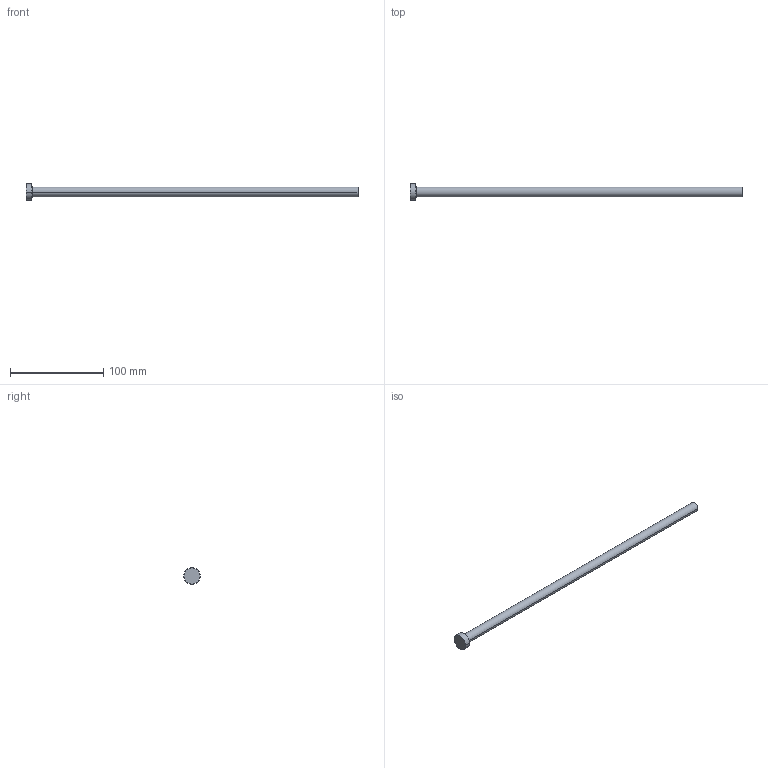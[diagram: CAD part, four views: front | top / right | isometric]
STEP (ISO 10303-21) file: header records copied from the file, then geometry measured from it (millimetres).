
FILE_DESCRIPTION (( 'STEP AP214' ), '1' );
FILE_NAME ('P27-14.STEP', '2020-03-12T10:07:41', ( '' ), ( '' ), 'SwSTEP 2.0', 'SolidWorks 2018', '' );
FILE_SCHEMA (( 'AUTOMOTIVE_DESIGN' ));
Length unit declared in the file: inch
Products named in the file (1): P27-14
Bounding box: 355.6 x 17.46 x 17.46 mm (x, y, z)
Volume: 30687.9 mm3; surface area: 12123.8 mm2
Topology: 1 solids, 1 shells, 13 faces, 24 edges, 14 vertices
Faces by surface type: cone 4, cylinder 4, plane 3, torus 2
Entity records: 366 total; most frequent: DIRECTION 68, CARTESIAN_POINT 52, ORIENTED_EDGE 48, AXIS2_PLACEMENT_3D 30, EDGE_CURVE 24, CIRCLE 16, VERTEX_POINT 14, EDGE_LOOP 14
